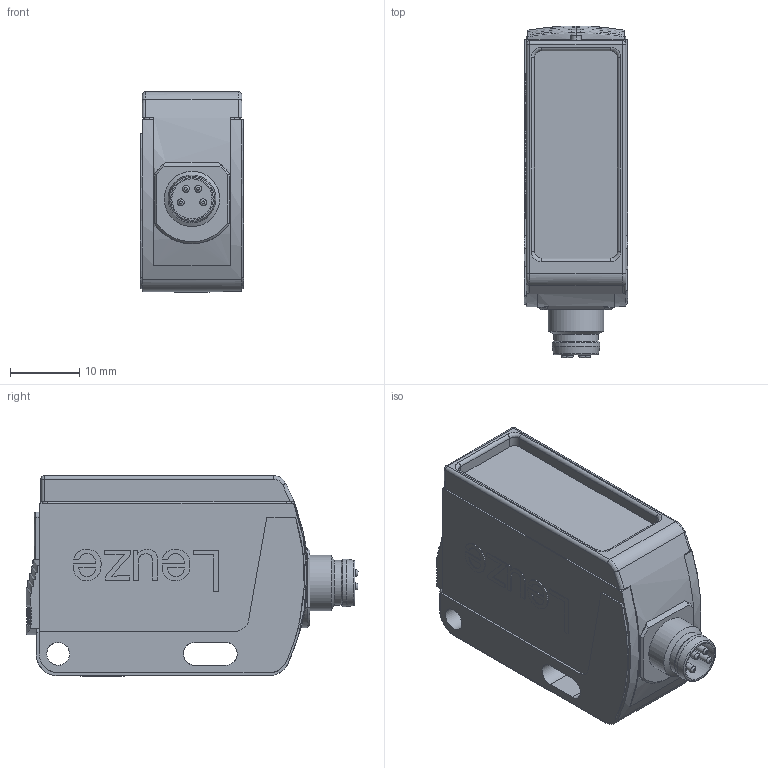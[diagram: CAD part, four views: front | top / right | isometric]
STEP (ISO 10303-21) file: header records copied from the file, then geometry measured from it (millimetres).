
FILE_DESCRIPTION((''),'2;1');
FILE_NAME('E:\temp\br25b_st_m8.stp','2006-10-23T10:09:19',('User'),( 'SDRC'),'I-DEAS Master Series','UNIX','Yes');
FILE_SCHEMA(('CONFIG_CONTROL_DESIGN', 'GEOMETRIC_VALIDATION_PROPERTIES_MIM','SHAPE_APPEARANCE_LAYER_MIM'));
Length unit declared in the file: millimetre
Bounding box: 15 x 48 x 29 mm (x, y, z)
Volume: 14992.6 mm3; surface area: 5159 mm2
Topology: 1 solids, 1 shells, 330 faces, 861 edges, 571 vertices
Faces by surface type: bspline 330
Entity records: 12360 total; most frequent: CARTESIAN_POINT 7010, ORIENTED_EDGE 1650, EDGE_CURVE 825, VERTEX_POINT 517, B_SPLINE_CURVE_WITH_KNOTS 441, OVER_RIDING_STYLED_ITEM 432, EDGE_LOOP 354, FACE_OUTER_BOUND 330
